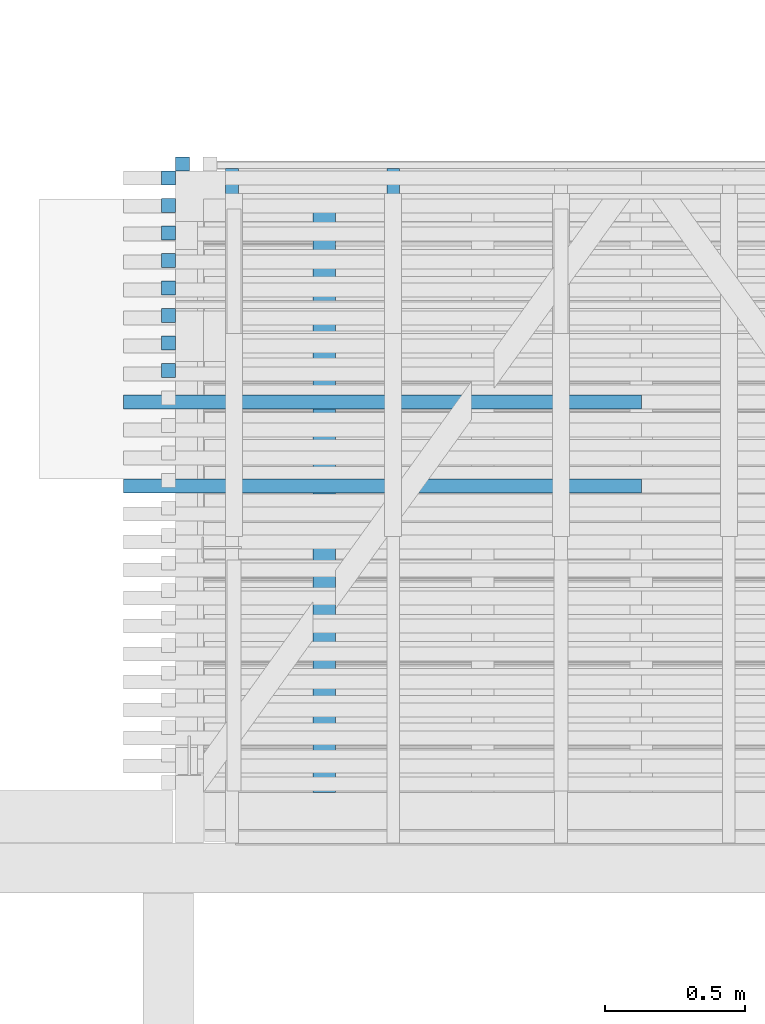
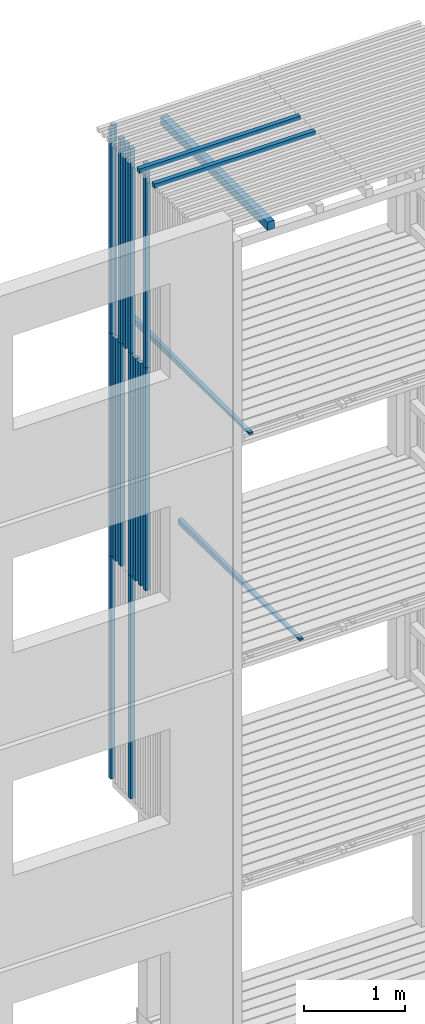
# One storey, part 116 of 182: 21 beams.
"""IFC2X3 building model written with IfcOpenShell, lengths in metres."""

from ifc_helpers import new_model, si_unit, frame, origin, place, context, project, spatial, faceted_brep, element, save


model = new_model("IFC2X3")

# Units and contexts
model_context = context("Model", 3, precision=1e-06, world=origin())
ifc_project = project(units=[si_unit("LENGTHUNIT", "METRE"), si_unit("PLANEANGLEUNIT", "RADIAN")], contexts=[model_context])

# Site, building, storey
site = spatial("IfcSite", under=ifc_project, CompositionType="ELEMENT")
building = spatial("IfcBuilding", under=site, CompositionType="ELEMENT")
storey = spatial("IfcBuildingStorey", under=building, Name="vs", CompositionType="ELEMENT", Elevation=-0.85)

# Beams
placement = place(None, origin())
beam_1_placement = place(placement, frame((52.999999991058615, 7.048714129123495, 5.274999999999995), z_axis=(1.0, 0.0, 0.0), x_axis=(0.0, 0.0, 1.0)))
element("IfcBeam", 1, at=beam_1_placement, inside=storey, Name="Bardage", context=model_context, shape_type="Brep", body=[
    faceted_brep([(2.699999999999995, 0.025000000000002, 0.025000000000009), (2.699999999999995, -0.024999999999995, 0.025000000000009), (2.699999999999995, -0.024999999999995, -0.025000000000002), (2.699999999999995, 0.025000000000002, -0.025000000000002), (1e-15, 0.025000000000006, 0.025000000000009), (2.699999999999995, 0.025000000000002, 0.025000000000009), (2.699999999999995, 0.025000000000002, -0.025000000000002), (1e-15, 0.025000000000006, -0.025000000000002), (1e-15, -0.024999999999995, 0.025000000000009), (1e-15, 0.025000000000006, 0.025000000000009), (1e-15, 0.025000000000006, -0.025000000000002), (1e-15, -0.024999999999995, -0.025000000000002), (1e-15, 0.025000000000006, 0.025000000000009), (1e-15, -0.024999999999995, 0.025000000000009), (2.699999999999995, -0.024999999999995, 0.025000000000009), (2.699999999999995, 0.025000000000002, 0.025000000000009), (1e-15, -0.024999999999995, 0.025000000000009), (1e-15, -0.024999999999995, -0.025000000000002), (2.699999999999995, -0.024999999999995, -0.025000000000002), (2.699999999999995, -0.024999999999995, 0.025000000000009), (1e-15, -0.024999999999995, -0.025000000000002), (1e-15, 0.025000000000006, -0.025000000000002), (2.699999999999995, 0.025000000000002, -0.025000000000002), (2.699999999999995, -0.024999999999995, -0.025000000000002)], [[[0, 1, 2, 3]], [[4, 5, 6, 7]], [[8, 9, 10, 11]], [[12, 13, 14, 15]], [[16, 17, 18, 19]], [[20, 21, 22, 23]]]),
])
beam_2_placement = place(placement, frame((52.999999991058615, 6.557805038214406, 5.274999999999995), z_axis=(1.0, 0.0, 0.0), x_axis=(0.0, 0.0, 1.0)))
element("IfcBeam", 2, at=beam_2_placement, inside=storey, Name="Bardage", context=model_context, shape_type="Brep", body=[
    faceted_brep([(2.699999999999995, 0.024999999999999, 0.025000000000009), (2.699999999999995, -0.024999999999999, 0.025000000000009), (2.699999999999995, -0.024999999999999, -0.025000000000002), (2.699999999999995, 0.024999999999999, -0.025000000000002), (1e-15, 0.024999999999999, 0.025000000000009), (2.699999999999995, 0.024999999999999, 0.025000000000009), (2.699999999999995, 0.024999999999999, -0.025000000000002), (1e-15, 0.024999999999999, -0.025000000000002), (1e-15, -0.024999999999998, 0.025000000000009), (1e-15, 0.024999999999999, 0.025000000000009), (1e-15, 0.024999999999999, -0.025000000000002), (1e-15, -0.024999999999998, -0.025000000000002), (1e-15, 0.024999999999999, 0.025000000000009), (1e-15, -0.024999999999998, 0.025000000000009), (2.699999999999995, -0.024999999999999, 0.025000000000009), (2.699999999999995, 0.024999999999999, 0.025000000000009), (1e-15, -0.024999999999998, 0.025000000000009), (1e-15, -0.024999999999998, -0.025000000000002), (2.699999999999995, -0.024999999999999, -0.025000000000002), (2.699999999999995, -0.024999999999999, 0.025000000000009), (1e-15, -0.024999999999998, -0.025000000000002), (1e-15, 0.024999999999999, -0.025000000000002), (2.699999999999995, 0.024999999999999, -0.025000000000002), (2.699999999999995, -0.024999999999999, -0.025000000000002)], [[[0, 1, 2, 3]], [[4, 5, 6, 7]], [[8, 9, 10, 11]], [[12, 13, 14, 15]], [[16, 17, 18, 19]], [[20, 21, 22, 23]]]),
])
beam_3_placement = place(placement, frame((52.999999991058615, 7.245077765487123, 2.575000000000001), z_axis=(1.0, 0.0, 0.0), x_axis=(0.0, 3e-15, 1.0)))
element("IfcBeam", 3, at=beam_3_placement, inside=storey, Name="Bardage", context=model_context, shape_type="Brep", body=[
    faceted_brep([(2.699961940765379, -0.024999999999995, 0.025000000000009), (2.699961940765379, -0.024999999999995, -0.025000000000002), (2.699961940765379, 0.02500000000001, -0.025000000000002), (2.699961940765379, 0.02500000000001, 0.025000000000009), (0.0, -0.025000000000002, 0.025000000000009), (2.699961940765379, -0.024999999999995, 0.025000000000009), (2.699961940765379, 0.02500000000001, 0.025000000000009), (0.0, 0.025000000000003, 0.025000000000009), (0.0, -0.025000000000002, 0.025000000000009), (0.0, 0.025000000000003, 0.025000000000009), (0.0, 0.025000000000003, -0.025000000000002), (0.0, -0.025000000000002, -0.025000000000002), (0.0, -0.025000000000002, 0.025000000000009), (0.0, -0.025000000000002, -0.025000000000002), (2.699961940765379, -0.024999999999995, -0.025000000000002), (2.699961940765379, -0.024999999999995, 0.025000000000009), (0.0, -0.025000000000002, -0.025000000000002), (0.0, 0.025000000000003, -0.025000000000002), (2.699961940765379, 0.02500000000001, -0.025000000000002), (2.699961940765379, -0.024999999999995, -0.025000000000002), (0.0, 0.025000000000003, -0.025000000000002), (0.0, 0.025000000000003, 0.025000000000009), (2.699961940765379, 0.02500000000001, 0.025000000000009), (2.699961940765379, 0.02500000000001, -0.025000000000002)], [[[0, 1, 2, 3]], [[4, 5, 6, 7]], [[8, 9, 10, 11]], [[12, 13, 14, 15]], [[16, 17, 18, 19]], [[20, 21, 22, 23]]]),
])
beam_4_placement = place(placement, frame((53.04999999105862, 7.295077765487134, 5.274999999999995), z_axis=(0.0, -1.0, 0.0), x_axis=(0.0, 0.0, 1.0)))
element("IfcBeam", 4, at=beam_4_placement, inside=storey, Name="Bardage", context=model_context, shape_type="Brep", body=[
    faceted_brep([(1e-15, -0.025000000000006, 0.025000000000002), (1e-15, 0.024999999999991, 0.025000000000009), (1e-15, 0.025000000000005, -0.024999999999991), (1e-15, -0.024999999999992, -0.024999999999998), (2.699999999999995, -0.024999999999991, -0.024999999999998), (2.699999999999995, 0.025000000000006, -0.024999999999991), (2.699999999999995, 0.024999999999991, 0.025000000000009), (2.699999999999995, -0.025000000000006, 0.025000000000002), (1e-15, -0.025000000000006, 0.025000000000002), (1e-15, -0.024999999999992, -0.024999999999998), (2.699999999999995, -0.024999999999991, -0.024999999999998), (2.699999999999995, -0.025000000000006, 0.025000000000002), (2.699999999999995, -0.024999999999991, -0.024999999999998), (1e-15, -0.024999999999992, -0.024999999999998), (1e-15, 0.025000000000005, -0.024999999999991), (2.699999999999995, 0.025000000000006, -0.024999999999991), (2.699999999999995, 0.025000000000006, -0.024999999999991), (1e-15, 0.025000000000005, -0.024999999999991), (1e-15, 0.024999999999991, 0.025000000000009), (2.699999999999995, 0.024999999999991, 0.025000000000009), (2.699999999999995, 0.024999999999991, 0.025000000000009), (1e-15, 0.024999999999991, 0.025000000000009), (1e-15, -0.025000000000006, 0.025000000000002), (2.699999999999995, -0.025000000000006, 0.025000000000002)], [[[0, 1, 2, 3]], [[4, 5, 6, 7]], [[8, 9, 10, 11]], [[12, 13, 14, 15]], [[16, 17, 18, 19]], [[20, 21, 22, 23]]]),
])
beam_5_placement = place(placement, frame((52.999999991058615, 7.048714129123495, 7.974999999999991), z_axis=(1.0, 0.0, 0.0), x_axis=(0.0, 0.0, 1.0)))
element("IfcBeam", 5, at=beam_5_placement, inside=storey, Name="Bardage", context=model_context, shape_type="Brep", body=[
    faceted_brep([(0.0, -0.024999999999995, 0.025000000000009), (0.0, 0.025000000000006, 0.025000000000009), (0.0, 0.025000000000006, -0.025000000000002), (0.0, -0.024999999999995, -0.025000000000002), (2.479999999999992, 0.025000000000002, -0.025000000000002), (2.479999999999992, 0.025000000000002, 0.025000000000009), (2.479999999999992, -0.024999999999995, 0.025000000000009), (2.479999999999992, -0.024999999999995, -0.025000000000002), (0.0, 0.025000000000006, 0.025000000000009), (0.0, -0.024999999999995, 0.025000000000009), (2.479999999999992, -0.024999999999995, 0.025000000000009), (2.479999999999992, 0.025000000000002, 0.025000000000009), (0.0, 0.025000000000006, -0.025000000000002), (0.0, 0.025000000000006, 0.025000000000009), (2.479999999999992, 0.025000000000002, 0.025000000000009), (2.479999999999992, 0.025000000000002, -0.025000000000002), (0.0, -0.024999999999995, -0.025000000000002), (0.0, 0.025000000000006, -0.025000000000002), (2.479999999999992, 0.025000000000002, -0.025000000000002), (2.479999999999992, -0.024999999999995, -0.025000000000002), (2.479999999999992, -0.024999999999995, 0.025000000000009), (0.0, -0.024999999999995, 0.025000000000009), (0.0, -0.024999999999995, -0.025000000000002), (2.479999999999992, -0.024999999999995, -0.025000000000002)], [[[0, 1, 2, 3]], [[4, 5, 6, 7]], [[8, 9, 10, 11]], [[12, 13, 14, 15]], [[16, 17, 18, 19]], [[20, 21, 22, 23]]]),
])
beam_6_placement = place(placement, frame((53.04999999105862, 7.295077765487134, 7.974999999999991), z_axis=(0.0, -1.0, 0.0), x_axis=(0.0, 0.0, 1.0)))
element("IfcBeam", 6, at=beam_6_placement, inside=storey, Name="Bardage", context=model_context, shape_type="Brep", body=[
    faceted_brep([(2.479999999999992, -0.025000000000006, 0.025000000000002), (2.479999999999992, -0.024999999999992, -0.024999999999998), (2.479999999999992, 0.025000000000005, -0.024999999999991), (2.479999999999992, 0.024999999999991, 0.025000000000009), (0.0, 0.024999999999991, 0.025000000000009), (0.0, -0.025000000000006, 0.025000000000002), (2.479999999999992, -0.025000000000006, 0.025000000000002), (2.479999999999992, 0.024999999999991, 0.025000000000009), (0.0, -0.025000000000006, 0.025000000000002), (0.0, 0.024999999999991, 0.025000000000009), (0.0, 0.025000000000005, -0.024999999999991), (0.0, -0.024999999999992, -0.024999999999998), (0.0, 0.025000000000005, -0.024999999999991), (0.0, 0.024999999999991, 0.025000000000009), (2.479999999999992, 0.024999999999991, 0.025000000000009), (2.479999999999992, 0.025000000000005, -0.024999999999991), (0.0, -0.024999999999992, -0.024999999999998), (0.0, 0.025000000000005, -0.024999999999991), (2.479999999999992, 0.025000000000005, -0.024999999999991), (2.479999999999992, -0.024999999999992, -0.024999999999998), (2.479999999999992, -0.025000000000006, 0.025000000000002), (0.0, -0.025000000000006, 0.025000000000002), (0.0, -0.024999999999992, -0.024999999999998), (2.479999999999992, -0.024999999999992, -0.024999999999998)], [[[0, 1, 2, 3]], [[4, 5, 6, 7]], [[8, 9, 10, 11]], [[12, 13, 14, 15]], [[16, 17, 18, 19]], [[20, 21, 22, 23]]]),
])
beam_7_placement = place(placement, frame((52.999999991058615, 7.245077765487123, 5.274999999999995), z_axis=(1.0, 0.0, 0.0), x_axis=(0.0, 3e-15, 1.0)))
element("IfcBeam", 7, at=beam_7_placement, inside=storey, Name="Bardage", context=model_context, shape_type="Brep", body=[
    faceted_brep([(2.699999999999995, 0.02500000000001, 0.025000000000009), (2.699999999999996, -0.024999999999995, 0.025000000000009), (2.699999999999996, -0.024999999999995, -0.025000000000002), (2.699999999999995, 0.02500000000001, -0.025000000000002), (1e-15, 0.025000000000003, 0.025000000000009), (2.699999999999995, 0.02500000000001, 0.025000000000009), (2.699999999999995, 0.02500000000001, -0.025000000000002), (1e-15, 0.025000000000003, -0.025000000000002), (2e-15, -0.025000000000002, 0.025000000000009), (1e-15, 0.025000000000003, 0.025000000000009), (1e-15, 0.025000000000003, -0.025000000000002), (2e-15, -0.025000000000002, -0.025000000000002), (1e-15, 0.025000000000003, 0.025000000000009), (2e-15, -0.025000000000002, 0.025000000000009), (2.699999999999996, -0.024999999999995, 0.025000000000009), (2.699999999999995, 0.02500000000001, 0.025000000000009), (2e-15, -0.025000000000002, 0.025000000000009), (2e-15, -0.025000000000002, -0.025000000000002), (2.699999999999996, -0.024999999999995, -0.025000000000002), (2.699999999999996, -0.024999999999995, 0.025000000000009), (2e-15, -0.025000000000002, -0.025000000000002), (1e-15, 0.025000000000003, -0.025000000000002), (2.699999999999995, 0.02500000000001, -0.025000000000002), (2.699999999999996, -0.024999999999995, -0.025000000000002)], [[[0, 1, 2, 3]], [[4, 5, 6, 7]], [[8, 9, 10, 11]], [[12, 13, 14, 15]], [[16, 17, 18, 19]], [[20, 21, 22, 23]]]),
])
beam_8_placement = place(placement, frame((52.999999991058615, 7.245077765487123, 7.974999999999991), z_axis=(1.0, 0.0, 0.0), x_axis=(0.0, 3e-15, 1.0)))
element("IfcBeam", 8, at=beam_8_placement, inside=storey, Name="Bardage", context=model_context, shape_type="Brep", body=[
    faceted_brep([(0.0, -0.025000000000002, 0.025000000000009), (-1e-15, 0.025000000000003, 0.025000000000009), (-1e-15, 0.025000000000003, -0.025000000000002), (0.0, -0.025000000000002, -0.025000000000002), (2.479999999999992, 0.02500000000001, -0.025000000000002), (2.479999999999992, 0.02500000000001, 0.025000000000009), (2.479999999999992, -0.024999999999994, 0.025000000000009), (2.479999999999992, -0.024999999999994, -0.025000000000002), (-1e-15, 0.025000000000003, 0.025000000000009), (0.0, -0.025000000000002, 0.025000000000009), (2.479999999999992, -0.024999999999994, 0.025000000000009), (2.479999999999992, 0.02500000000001, 0.025000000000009), (-1e-15, 0.025000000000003, -0.025000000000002), (-1e-15, 0.025000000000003, 0.025000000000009), (2.479999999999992, 0.02500000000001, 0.025000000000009), (2.479999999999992, 0.02500000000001, -0.025000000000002), (0.0, -0.025000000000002, -0.025000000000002), (-1e-15, 0.025000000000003, -0.025000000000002), (2.479999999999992, 0.02500000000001, -0.025000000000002), (2.479999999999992, -0.024999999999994, -0.025000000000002), (2.479999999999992, -0.024999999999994, 0.025000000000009), (0.0, -0.025000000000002, 0.025000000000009), (0.0, -0.025000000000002, -0.025000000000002), (2.479999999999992, -0.024999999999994, -0.025000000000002)], [[[0, 1, 2, 3]], [[4, 5, 6, 7]], [[8, 9, 10, 11]], [[12, 13, 14, 15]], [[16, 17, 18, 19]], [[20, 21, 22, 23]]]),
])
beam_9_placement = place(placement, frame((52.999999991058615, 6.950532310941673, 7.974999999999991), z_axis=(1.0, 0.0, 0.0), x_axis=(0.0, 0.0, 1.0)))
element("IfcBeam", 9, at=beam_9_placement, inside=storey, Name="Bardage", context=model_context, shape_type="Brep", body=[
    faceted_brep([(0.0, -0.025000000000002, 0.025000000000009), (0.0, 0.025000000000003, 0.025000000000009), (0.0, 0.025000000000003, -0.025000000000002), (0.0, -0.025000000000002, -0.025000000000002), (2.479999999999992, 0.025000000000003, -0.025000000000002), (2.479999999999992, 0.025000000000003, 0.025000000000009), (2.479999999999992, -0.025000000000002, 0.025000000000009), (2.479999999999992, -0.025000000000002, -0.025000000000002), (0.0, 0.025000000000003, 0.025000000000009), (0.0, -0.025000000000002, 0.025000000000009), (2.479999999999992, -0.025000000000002, 0.025000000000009), (2.479999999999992, 0.025000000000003, 0.025000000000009), (0.0, 0.025000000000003, -0.025000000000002), (0.0, 0.025000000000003, 0.025000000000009), (2.479999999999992, 0.025000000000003, 0.025000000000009), (2.479999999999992, 0.025000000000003, -0.025000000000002), (0.0, -0.025000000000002, -0.025000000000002), (0.0, 0.025000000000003, -0.025000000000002), (2.479999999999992, 0.025000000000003, -0.025000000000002), (2.479999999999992, -0.025000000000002, -0.025000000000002), (2.479999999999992, -0.025000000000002, 0.025000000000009), (0.0, -0.025000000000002, 0.025000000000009), (0.0, -0.025000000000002, -0.025000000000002), (2.479999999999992, -0.025000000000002, -0.025000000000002)], [[[0, 1, 2, 3]], [[4, 5, 6, 7]], [[8, 9, 10, 11]], [[12, 13, 14, 15]], [[16, 17, 18, 19]], [[20, 21, 22, 23]]]),
])
beam_10_placement = place(placement, frame((52.999999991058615, 7.146895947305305, 5.274999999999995), z_axis=(1.0, 0.0, 0.0), x_axis=(0.0, 0.0, 1.0)))
element("IfcBeam", 10, at=beam_10_placement, inside=storey, Name="Bardage", context=model_context, shape_type="Brep", body=[
    faceted_brep([(2.699999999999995, 0.024999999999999, 0.025000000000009), (2.699999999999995, -0.025000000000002, 0.025000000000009), (2.699999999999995, -0.025000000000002, -0.025000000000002), (2.699999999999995, 0.024999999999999, -0.025000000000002), (1e-15, 0.024999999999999, 0.025000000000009), (2.699999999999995, 0.024999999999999, 0.025000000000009), (2.699999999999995, 0.024999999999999, -0.025000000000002), (1e-15, 0.024999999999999, -0.025000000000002), (1e-15, -0.024999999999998, 0.025000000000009), (1e-15, 0.024999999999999, 0.025000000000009), (1e-15, 0.024999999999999, -0.025000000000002), (1e-15, -0.024999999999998, -0.025000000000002), (1e-15, 0.024999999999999, 0.025000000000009), (1e-15, -0.024999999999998, 0.025000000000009), (2.699999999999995, -0.025000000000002, 0.025000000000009), (2.699999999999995, 0.024999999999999, 0.025000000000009), (1e-15, -0.024999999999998, 0.025000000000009), (1e-15, -0.024999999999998, -0.025000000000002), (2.699999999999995, -0.025000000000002, -0.025000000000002), (2.699999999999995, -0.025000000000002, 0.025000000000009), (1e-15, -0.024999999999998, -0.025000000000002), (1e-15, 0.024999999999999, -0.025000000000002), (2.699999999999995, 0.024999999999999, -0.025000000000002), (2.699999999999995, -0.025000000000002, -0.025000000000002)], [[[0, 1, 2, 3]], [[4, 5, 6, 7]], [[8, 9, 10, 11]], [[12, 13, 14, 15]], [[16, 17, 18, 19]], [[20, 21, 22, 23]]]),
])
beam_11_placement = place(placement, frame((52.999999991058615, 6.852350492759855, 2.575000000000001), z_axis=(1.0, 0.0, 0.0), x_axis=(0.0, 0.0, 1.0)))
element("IfcBeam", 11, at=beam_11_placement, inside=storey, Name="Bardage", context=model_context, shape_type="Brep", body=[
    faceted_brep([(2.699961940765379, -0.024999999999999, 0.025000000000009), (2.699961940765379, -0.024999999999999, -0.025000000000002), (2.699961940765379, 0.024999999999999, -0.025000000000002), (2.699961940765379, 0.024999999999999, 0.025000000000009), (0.0, -0.024999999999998, 0.025000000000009), (2.699961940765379, -0.024999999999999, 0.025000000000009), (2.699961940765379, 0.024999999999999, 0.025000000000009), (0.0, 0.024999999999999, 0.025000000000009), (0.0, -0.024999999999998, 0.025000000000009), (0.0, 0.024999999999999, 0.025000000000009), (0.0, 0.024999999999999, -0.025000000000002), (0.0, -0.024999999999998, -0.025000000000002), (0.0, -0.024999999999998, 0.025000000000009), (0.0, -0.024999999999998, -0.025000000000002), (2.699961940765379, -0.024999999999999, -0.025000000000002), (2.699961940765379, -0.024999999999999, 0.025000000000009), (0.0, -0.024999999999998, -0.025000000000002), (0.0, 0.024999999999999, -0.025000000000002), (2.699961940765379, 0.024999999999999, -0.025000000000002), (2.699961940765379, -0.024999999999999, -0.025000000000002), (0.0, 0.024999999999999, -0.025000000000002), (0.0, 0.024999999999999, 0.025000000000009), (2.699961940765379, 0.024999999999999, 0.025000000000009), (2.699961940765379, 0.024999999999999, -0.025000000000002)], [[[0, 1, 2, 3]], [[4, 5, 6, 7]], [[8, 9, 10, 11]], [[12, 13, 14, 15]], [[16, 17, 18, 19]], [[20, 21, 22, 23]]]),
])
beam_12_placement = place(placement, frame((52.999999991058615, 6.852350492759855, 5.274999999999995), z_axis=(1.0, 0.0, 0.0), x_axis=(0.0, 0.0, 1.0)))
element("IfcBeam", 12, at=beam_12_placement, inside=storey, Name="Bardage", context=model_context, shape_type="Brep", body=[
    faceted_brep([(2.699999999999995, 0.024999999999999, 0.025000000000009), (2.699999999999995, -0.024999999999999, 0.025000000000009), (2.699999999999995, -0.024999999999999, -0.025000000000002), (2.699999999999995, 0.024999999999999, -0.025000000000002), (1e-15, 0.024999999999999, 0.025000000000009), (2.699999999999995, 0.024999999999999, 0.025000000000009), (2.699999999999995, 0.024999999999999, -0.025000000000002), (1e-15, 0.024999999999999, -0.025000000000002), (1e-15, -0.024999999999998, 0.025000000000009), (1e-15, 0.024999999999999, 0.025000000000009), (1e-15, 0.024999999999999, -0.025000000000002), (1e-15, -0.024999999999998, -0.025000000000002), (1e-15, 0.024999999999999, 0.025000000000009), (1e-15, -0.024999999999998, 0.025000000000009), (2.699999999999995, -0.024999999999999, 0.025000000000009), (2.699999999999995, 0.024999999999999, 0.025000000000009), (1e-15, -0.024999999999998, 0.025000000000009), (1e-15, -0.024999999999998, -0.025000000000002), (2.699999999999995, -0.024999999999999, -0.025000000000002), (2.699999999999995, -0.024999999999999, 0.025000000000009), (1e-15, -0.024999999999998, -0.025000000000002), (1e-15, 0.024999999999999, -0.025000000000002), (2.699999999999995, 0.024999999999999, -0.025000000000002), (2.699999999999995, -0.024999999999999, -0.025000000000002)], [[[0, 1, 2, 3]], [[4, 5, 6, 7]], [[8, 9, 10, 11]], [[12, 13, 14, 15]], [[16, 17, 18, 19]], [[20, 21, 22, 23]]]),
])
beam_13_placement = place(placement, frame((52.999999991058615, 6.754168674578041, 5.274999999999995), z_axis=(1.0, 0.0, 0.0), x_axis=(0.0, 0.0, 1.0)))
element("IfcBeam", 13, at=beam_13_placement, inside=storey, Name="Bardage", context=model_context, shape_type="Brep", body=[
    faceted_brep([(2.699999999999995, 0.025000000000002, 0.025000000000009), (2.699999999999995, -0.024999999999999, 0.025000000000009), (2.699999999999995, -0.024999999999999, -0.025000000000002), (2.699999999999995, 0.025000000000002, -0.025000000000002), (1e-15, 0.025000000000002, 0.025000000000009), (2.699999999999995, 0.025000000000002, 0.025000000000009), (2.699999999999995, 0.025000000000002, -0.025000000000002), (1e-15, 0.025000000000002, -0.025000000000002), (1e-15, -0.024999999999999, 0.025000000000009), (1e-15, 0.025000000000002, 0.025000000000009), (1e-15, 0.025000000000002, -0.025000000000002), (1e-15, -0.024999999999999, -0.025000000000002), (1e-15, 0.025000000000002, 0.025000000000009), (1e-15, -0.024999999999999, 0.025000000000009), (2.699999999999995, -0.024999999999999, 0.025000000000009), (2.699999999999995, 0.025000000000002, 0.025000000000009), (1e-15, -0.024999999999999, 0.025000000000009), (1e-15, -0.024999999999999, -0.025000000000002), (2.699999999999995, -0.024999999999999, -0.025000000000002), (2.699999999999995, -0.024999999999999, 0.025000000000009), (1e-15, -0.024999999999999, -0.025000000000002), (1e-15, 0.025000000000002, -0.025000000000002), (2.699999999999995, 0.025000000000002, -0.025000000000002), (2.699999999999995, -0.024999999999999, -0.025000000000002)], [[[0, 1, 2, 3]], [[4, 5, 6, 7]], [[8, 9, 10, 11]], [[12, 13, 14, 15]], [[16, 17, 18, 19]], [[20, 21, 22, 23]]]),
])
for number, where, z_axis, x_axis in (
    (14, (52.999999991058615, 6.852350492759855, 7.974999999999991), (1.0, 0.0, 0.0), (0.0, 0.0, 1.0)),
    (15, (52.999999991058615, 6.557805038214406, 7.974999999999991), (1.0, 0.0, 0.0), (0.0, 0.0, 1.0)),
):
    element("IfcBeam", number, at=place(placement, frame(where, z_axis=z_axis, x_axis=x_axis)), inside=storey, Name="Bardage", context=model_context, shape_type="Brep", body=[
        faceted_brep([(0.0, -0.024999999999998, 0.025000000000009), (0.0, 0.024999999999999, 0.025000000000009), (0.0, 0.024999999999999, -0.025000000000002), (0.0, -0.024999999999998, -0.025000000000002), (2.479999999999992, 0.024999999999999, -0.025000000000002), (2.479999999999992, 0.024999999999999, 0.025000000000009), (2.479999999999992, -0.024999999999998, 0.025000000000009), (2.479999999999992, -0.024999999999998, -0.025000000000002), (0.0, 0.024999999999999, 0.025000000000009), (0.0, -0.024999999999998, 0.025000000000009), (2.479999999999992, -0.024999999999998, 0.025000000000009), (2.479999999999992, 0.024999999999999, 0.025000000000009), (0.0, 0.024999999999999, -0.025000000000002), (0.0, 0.024999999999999, 0.025000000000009), (2.479999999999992, 0.024999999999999, 0.025000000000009), (2.479999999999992, 0.024999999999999, -0.025000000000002), (0.0, -0.024999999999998, -0.025000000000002), (0.0, 0.024999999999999, -0.025000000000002), (2.479999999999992, 0.024999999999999, -0.025000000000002), (2.479999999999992, -0.024999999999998, -0.025000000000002), (2.479999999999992, -0.024999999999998, 0.025000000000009), (0.0, -0.024999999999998, 0.025000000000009), (0.0, -0.024999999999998, -0.025000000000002), (2.479999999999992, -0.024999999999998, -0.025000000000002)], [[[0, 1, 2, 3]], [[4, 5, 6, 7]], [[8, 9, 10, 11]], [[12, 13, 14, 15]], [[16, 17, 18, 19]], [[20, 21, 22, 23]]]),
    ])
beam_14_placement = place(placement, frame((52.999999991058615, 6.65598685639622, 5.274999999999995), z_axis=(1.0, 0.0, 0.0), x_axis=(0.0, 0.0, 1.0)))
element("IfcBeam", 16, at=beam_14_placement, inside=storey, Name="Bardage", context=model_context, shape_type="Brep", body=[
    faceted_brep([(2.699999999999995, 0.024999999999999, 0.025000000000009), (2.699999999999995, -0.025000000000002, 0.025000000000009), (2.699999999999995, -0.025000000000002, -0.025000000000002), (2.699999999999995, 0.024999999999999, -0.025000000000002), (1e-15, 0.024999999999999, 0.025000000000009), (2.699999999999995, 0.024999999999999, 0.025000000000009), (2.699999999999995, 0.024999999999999, -0.025000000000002), (1e-15, 0.024999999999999, -0.025000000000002), (1e-15, -0.025000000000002, 0.025000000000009), (1e-15, 0.024999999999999, 0.025000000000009), (1e-15, 0.024999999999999, -0.025000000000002), (1e-15, -0.025000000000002, -0.025000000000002), (1e-15, 0.024999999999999, 0.025000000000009), (1e-15, -0.025000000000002, 0.025000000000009), (2.699999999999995, -0.025000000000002, 0.025000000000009), (2.699999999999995, 0.024999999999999, 0.025000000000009), (1e-15, -0.025000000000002, 0.025000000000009), (1e-15, -0.025000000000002, -0.025000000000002), (2.699999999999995, -0.025000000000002, -0.025000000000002), (2.699999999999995, -0.025000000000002, 0.025000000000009), (1e-15, -0.025000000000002, -0.025000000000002), (1e-15, 0.024999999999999, -0.025000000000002), (2.699999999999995, 0.024999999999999, -0.025000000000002), (2.699999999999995, -0.025000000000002, -0.025000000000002)], [[[0, 1, 2, 3]], [[4, 5, 6, 7]], [[8, 9, 10, 11]], [[12, 13, 14, 15]], [[16, 17, 18, 19]], [[20, 21, 22, 23]]]),
])
beam_15_placement = place(placement, frame((54.689999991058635, 6.145077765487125, 10.47999999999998), z_axis=(0.0, 0.0, 1.0), x_axis=(-1.0, 0.0, 0.0)))
element("IfcBeam", 17, at=beam_15_placement, inside=storey, Name="Bardage", context=model_context, shape_type="Brep", body=[
    faceted_brep([(1.850000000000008, -0.024999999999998, -0.024999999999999), (1.850000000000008, -0.024999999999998, 0.025000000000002), (-1e-15, -0.024999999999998, 0.025000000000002), (-1e-15, -0.024999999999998, -0.024999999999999), (1.850000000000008, -0.024999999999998, 0.025000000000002), (1.850000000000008, -0.024999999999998, -0.024999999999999), (1.850000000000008, 0.024999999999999, -0.024999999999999), (1.850000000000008, 0.024999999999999, 0.025000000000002), (1.850000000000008, 0.024999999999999, -0.024999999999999), (1.850000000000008, -0.024999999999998, -0.024999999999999), (-1e-15, -0.024999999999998, -0.024999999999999), (-1e-15, 0.024999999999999, -0.024999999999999), (1.850000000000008, 0.024999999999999, 0.025000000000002), (1.850000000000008, 0.024999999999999, -0.024999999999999), (-1e-15, 0.024999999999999, -0.024999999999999), (-1e-15, 0.024999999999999, 0.025000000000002), (-1e-15, -0.024999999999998, 0.025000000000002), (1.850000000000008, -0.024999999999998, 0.025000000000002), (1.850000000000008, 0.024999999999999, 0.025000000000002), (-1e-15, 0.024999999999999, 0.025000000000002), (-1e-15, -0.024999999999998, -0.024999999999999), (-1e-15, -0.024999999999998, 0.025000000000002), (-1e-15, 0.024999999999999, 0.025000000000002), (-1e-15, 0.024999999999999, -0.024999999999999)], [[[0, 1, 2, 3]], [[4, 5, 6, 7]], [[8, 9, 10, 11]], [[12, 13, 14, 15]], [[16, 17, 18, 19]], [[20, 21, 22, 23]]]),
])
beam_16_placement = place(placement, frame((53.80299999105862, 4.870077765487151, 5.384400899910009), z_axis=(0.0, 0.0, 1.0), x_axis=(0.0, 1.0, 0.0)))
element("IfcBeam", 18, at=beam_16_placement, inside=storey, Name="Calage", context=model_context, shape_type="Brep", body=[
    faceted_brep([(2.41000000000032, -0.022500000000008, -0.035599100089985), (0.0, -0.022500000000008, 0.012600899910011), (0.0, 0.022499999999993, 0.012600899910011), (2.41000000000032, 0.022499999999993, -0.035599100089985), (0.0, 0.022499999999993, 0.035599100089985), (0.0, 0.022499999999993, 0.012600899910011), (0.0, -0.022500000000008, 0.012600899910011), (0.0, -0.022500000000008, 0.035599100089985), (2.41000000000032, 0.022499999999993, -0.035599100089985), (0.0, 0.022499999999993, 0.012600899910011), (0.0, 0.022499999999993, 0.035599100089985), (2.41000000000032, 0.022499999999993, 0.035599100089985), (2.41000000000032, -0.022500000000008, 0.035599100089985), (0.0, -0.022500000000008, 0.035599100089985), (0.0, -0.022500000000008, 0.012600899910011), (2.41000000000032, -0.022500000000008, -0.035599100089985), (2.41000000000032, 0.022499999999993, 0.035599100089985), (0.0, 0.022499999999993, 0.035599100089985), (0.0, -0.022500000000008, 0.035599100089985), (2.41000000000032, -0.022500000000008, 0.035599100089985), (2.41000000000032, 0.022499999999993, -0.035599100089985), (2.41000000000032, 0.022499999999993, 0.035599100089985), (2.41000000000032, -0.022500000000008, 0.035599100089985), (2.41000000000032, -0.022500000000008, -0.035599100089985)], [[[0, 1, 2, 3]], [[4, 5, 6, 7]], [[8, 9, 10, 11]], [[12, 13, 14, 15]], [[16, 17, 18, 19]], [[20, 21, 22, 23]]]),
])
beam_17_placement = place(placement, frame((53.22749999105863, 4.870077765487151, 8.084400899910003), z_axis=(0.0, 0.0, 1.0), x_axis=(0.0, 1.0, 0.0)))
element("IfcBeam", 19, at=beam_17_placement, inside=storey, Name="Calage", context=model_context, shape_type="Brep", body=[
    faceted_brep([(2.41000000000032, -0.022499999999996, -0.035599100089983), (0.0, -0.022499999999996, 0.012600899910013), (0.0, 0.022500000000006, 0.012600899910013), (2.41000000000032, 0.022500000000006, -0.035599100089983), (0.0, 0.022500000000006, 0.035599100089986), (0.0, 0.022500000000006, 0.012600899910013), (0.0, -0.022499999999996, 0.012600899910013), (0.0, -0.022499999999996, 0.035599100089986), (2.41000000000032, 0.022500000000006, -0.035599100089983), (0.0, 0.022500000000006, 0.012600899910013), (0.0, 0.022500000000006, 0.035599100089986), (2.41000000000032, 0.022500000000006, 0.035599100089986), (2.41000000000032, -0.022499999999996, 0.035599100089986), (0.0, -0.022499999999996, 0.035599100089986), (0.0, -0.022499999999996, 0.012600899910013), (2.41000000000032, -0.022499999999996, -0.035599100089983), (2.41000000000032, 0.022500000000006, 0.035599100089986), (0.0, 0.022500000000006, 0.035599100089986), (0.0, -0.022499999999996, 0.035599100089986), (2.41000000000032, -0.022499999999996, 0.035599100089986), (2.41000000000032, 0.022500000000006, -0.035599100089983), (2.41000000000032, 0.022500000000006, 0.035599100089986), (2.41000000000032, -0.022499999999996, 0.035599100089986), (2.41000000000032, -0.022499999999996, -0.035599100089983)], [[[0, 1, 2, 3]], [[4, 5, 6, 7]], [[8, 9, 10, 11]], [[12, 13, 14, 15]], [[16, 17, 18, 19]], [[20, 21, 22, 23]]]),
])
beam_18_placement = place(placement, frame((54.689999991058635, 6.445077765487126, 10.47999999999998), z_axis=(0.0, 0.0, 1.0), x_axis=(-1.0, -2e-15, 0.0)))
element("IfcBeam", 20, at=beam_18_placement, inside=storey, Name="Bardage", context=model_context, shape_type="Brep", body=[
    faceted_brep([(1.850000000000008, -0.025000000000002, -0.024999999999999), (1.850000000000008, -0.025000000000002, 0.025000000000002), (-1e-15, -0.025000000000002, 0.025000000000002), (-1e-15, -0.025000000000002, -0.024999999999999), (1.850000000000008, -0.025000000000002, 0.025000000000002), (1.850000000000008, -0.025000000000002, -0.024999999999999), (1.850000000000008, 0.024999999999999, -0.024999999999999), (1.850000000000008, 0.024999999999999, 0.025000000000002), (1.850000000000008, 0.024999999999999, -0.024999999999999), (1.850000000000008, -0.025000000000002, -0.024999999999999), (-1e-15, -0.025000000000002, -0.024999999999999), (-1e-15, 0.025000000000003, -0.024999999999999), (1.850000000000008, 0.024999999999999, 0.025000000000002), (1.850000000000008, 0.024999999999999, -0.024999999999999), (-1e-15, 0.025000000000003, -0.024999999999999), (-1e-15, 0.025000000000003, 0.025000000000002), (-1e-15, -0.025000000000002, 0.025000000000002), (1.850000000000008, -0.025000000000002, 0.025000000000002), (1.850000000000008, 0.024999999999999, 0.025000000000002), (-1e-15, 0.025000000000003, 0.025000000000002), (-1e-15, -0.025000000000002, -0.024999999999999), (-1e-15, -0.025000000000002, 0.025000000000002), (-1e-15, 0.025000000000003, 0.025000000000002), (-1e-15, 0.025000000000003, -0.024999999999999)], [[[0, 1, 2, 3]], [[4, 5, 6, 7]], [[8, 9, 10, 11]], [[12, 13, 14, 15]], [[16, 17, 18, 19]], [[20, 21, 22, 23]]]),
])
beam_19_placement = place(placement, frame((53.556666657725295, 5.050077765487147, 10.404999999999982), z_axis=(0.0, 0.0, 1.0), x_axis=(0.0, 1.0, 0.0)))
element("IfcBeam", 21, at=beam_19_placement, inside=storey, Name="Support bardage", context=model_context, shape_type="Brep", body=[
    faceted_brep([(2.120000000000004, -0.039999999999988, 0.050000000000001), (2.120000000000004, 0.04000000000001, 0.050000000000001), (3e-15, 0.04000000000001, 0.050000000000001), (3e-15, -0.039999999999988, 0.050000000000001), (3e-15, 0.04000000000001, 0.050000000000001), (2.120000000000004, 0.04000000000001, 0.050000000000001), (2.120000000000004, 0.04000000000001, -0.050000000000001), (3e-15, 0.04000000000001, -0.050000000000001), (2.120000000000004, 0.04000000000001, 0.050000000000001), (2.120000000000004, -0.039999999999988, 0.050000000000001), (2.120000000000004, -0.039999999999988, -0.050000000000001), (2.120000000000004, 0.04000000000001, -0.050000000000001), (2.120000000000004, -0.039999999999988, -0.050000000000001), (2.120000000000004, -0.039999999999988, 0.050000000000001), (3e-15, -0.039999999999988, 0.050000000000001), (3e-15, -0.039999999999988, -0.050000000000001), (3e-15, 0.04000000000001, -0.050000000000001), (2.120000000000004, 0.04000000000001, -0.050000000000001), (2.120000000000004, -0.039999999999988, -0.050000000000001), (3e-15, -0.039999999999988, -0.050000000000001), (3e-15, 0.04000000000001, 0.050000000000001), (3e-15, 0.04000000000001, -0.050000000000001), (3e-15, -0.039999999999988, -0.050000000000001), (3e-15, -0.039999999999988, 0.050000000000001)], [[[0, 1, 2, 3]], [[4, 5, 6, 7]], [[8, 9, 10, 11]], [[12, 13, 14, 15]], [[16, 17, 18, 19]], [[20, 21, 22, 23]]]),
])

save(model, "model.ifc")
